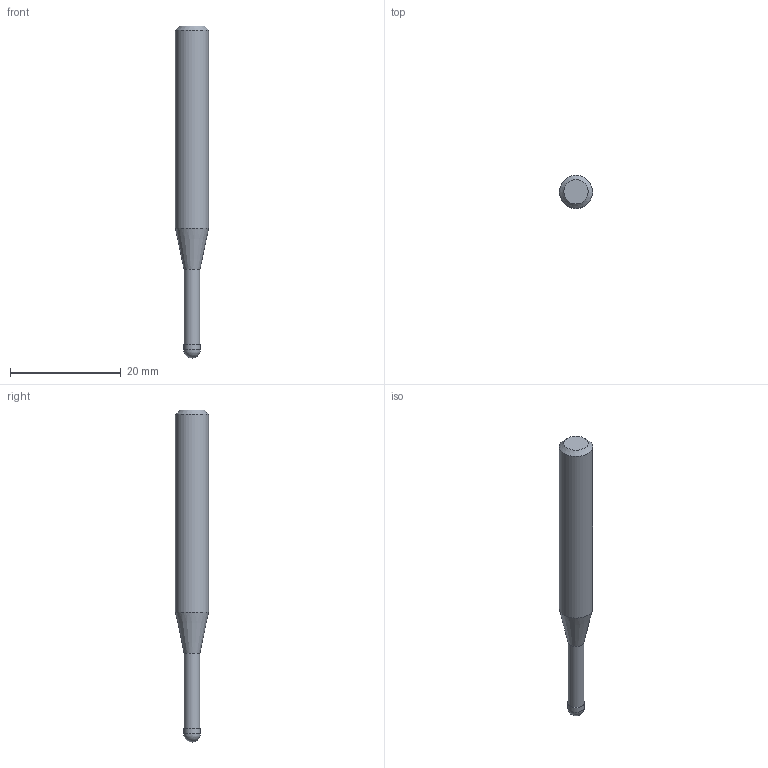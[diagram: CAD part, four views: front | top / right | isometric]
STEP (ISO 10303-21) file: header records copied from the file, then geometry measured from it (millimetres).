
FILE_DESCRIPTION((''),'2;1');
FILE_NAME('C:\Users\nsx150\AppData\Local\Temp\Mastercam 2021\3SYKECWX22\TEMP.step','2021-04-22T10:04:57',(''),(''),'STEP Write','Mastercam 2021 ... CNC Software, Inc.','');
FILE_SCHEMA(('AUTOMOTIVE_DESIGN'));
Length unit declared in the file: millimetre
Products named in the file (1): None
Bounding box: 6 x 6 x 60 mm (x, y, z)
Volume: 1248.1 mm3; surface area: 971.5 mm2
Topology: 2 solids, 2 shells, 9 faces, 14 edges, 8 vertices
Faces by surface type: plane 3, cylinder 3, cone 2, sphere 1
Full cylindrical faces by diameter (mm): 2.85 x1, 3 x1, 6 x1
Entity records: 211 total; most frequent: DIRECTION 36, CARTESIAN_POINT 25, AXIS2_PLACEMENT_3D 18, ORIENTED_EDGE 14, EDGE_LOOP 14, STYLED_ITEM 12, ADVANCED_FACE 9, FACE_BOUND 8
